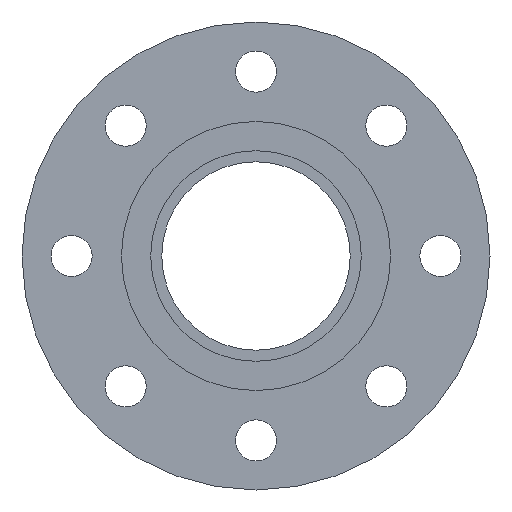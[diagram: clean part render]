
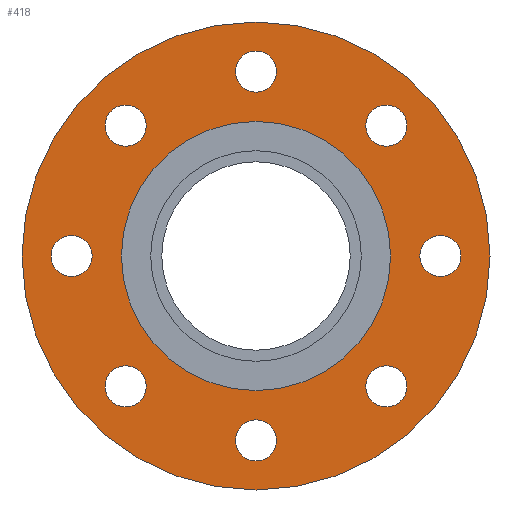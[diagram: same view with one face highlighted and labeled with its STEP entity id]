
A CAD part, left-side view. The second image highlights one B-rep face of the part: STEP entity #418.
In plain terms, the highlighted planar face has unit normal (-1, 0, 0).
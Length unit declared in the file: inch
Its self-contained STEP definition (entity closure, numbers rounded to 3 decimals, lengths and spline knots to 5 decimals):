
#14=FACE_BOUND('',#72,.T.);
#15=FACE_BOUND('',#73,.T.);
#16=FACE_BOUND('',#74,.T.);
#17=FACE_BOUND('',#75,.T.);
#18=FACE_BOUND('',#76,.T.);
#19=FACE_BOUND('',#77,.T.);
#20=FACE_BOUND('',#78,.T.);
#21=FACE_BOUND('',#79,.T.);
#22=FACE_BOUND('',#80,.T.);
#36=PLANE('',#478);
#51=FACE_OUTER_BOUND('',#71,.T.);
#71=EDGE_LOOP('',(#304,#305));
#72=EDGE_LOOP('',(#306));
#73=EDGE_LOOP('',(#307));
#74=EDGE_LOOP('',(#308));
#75=EDGE_LOOP('',(#309));
#76=EDGE_LOOP('',(#310));
#77=EDGE_LOOP('',(#311));
#78=EDGE_LOOP('',(#312));
#79=EDGE_LOOP('',(#313));
#80=EDGE_LOOP('',(#314,#315));
#133=CIRCLE('',#451,0.44);
#135=CIRCLE('',#454,0.44);
#137=CIRCLE('',#457,0.44);
#139=CIRCLE('',#460,0.44);
#141=CIRCLE('',#463,0.44);
#143=CIRCLE('',#466,0.44);
#145=CIRCLE('',#469,0.44);
#147=CIRCLE('',#472,0.44);
#148=CIRCLE('',#474,5.);
#149=CIRCLE('',#475,5.);
#152=CIRCLE('',#479,2.875);
#153=CIRCLE('',#480,2.875);
#173=VERTEX_POINT('',#649);
#175=VERTEX_POINT('',#655);
#177=VERTEX_POINT('',#661);
#179=VERTEX_POINT('',#667);
#181=VERTEX_POINT('',#673);
#183=VERTEX_POINT('',#679);
#185=VERTEX_POINT('',#685);
#187=VERTEX_POINT('',#691);
#188=VERTEX_POINT('',#695);
#189=VERTEX_POINT('',#696);
#192=VERTEX_POINT('',#705);
#193=VERTEX_POINT('',#706);
#214=EDGE_CURVE('',#173,#173,#133,.T.);
#217=EDGE_CURVE('',#175,#175,#135,.T.);
#220=EDGE_CURVE('',#177,#177,#137,.T.);
#223=EDGE_CURVE('',#179,#179,#139,.T.);
#226=EDGE_CURVE('',#181,#181,#141,.T.);
#229=EDGE_CURVE('',#183,#183,#143,.T.);
#232=EDGE_CURVE('',#185,#185,#145,.T.);
#235=EDGE_CURVE('',#187,#187,#147,.T.);
#236=EDGE_CURVE('',#188,#189,#148,.T.);
#237=EDGE_CURVE('',#189,#188,#149,.T.);
#241=EDGE_CURVE('',#192,#193,#152,.T.);
#242=EDGE_CURVE('',#193,#192,#153,.T.);
#304=ORIENTED_EDGE('',*,*,#236,.T.);
#305=ORIENTED_EDGE('',*,*,#237,.T.);
#306=ORIENTED_EDGE('',*,*,#214,.T.);
#307=ORIENTED_EDGE('',*,*,#217,.T.);
#308=ORIENTED_EDGE('',*,*,#220,.T.);
#309=ORIENTED_EDGE('',*,*,#223,.T.);
#310=ORIENTED_EDGE('',*,*,#226,.T.);
#311=ORIENTED_EDGE('',*,*,#229,.T.);
#312=ORIENTED_EDGE('',*,*,#232,.T.);
#313=ORIENTED_EDGE('',*,*,#235,.T.);
#314=ORIENTED_EDGE('',*,*,#241,.F.);
#315=ORIENTED_EDGE('',*,*,#242,.F.);
#418=ADVANCED_FACE('',(#51,#14,#15,#16,#17,#18,#19,#20,#21,#22),#36,.T.);
#451=AXIS2_PLACEMENT_3D('',#651,#516,#517);
#454=AXIS2_PLACEMENT_3D('',#657,#523,#524);
#457=AXIS2_PLACEMENT_3D('',#663,#530,#531);
#460=AXIS2_PLACEMENT_3D('',#669,#537,#538);
#463=AXIS2_PLACEMENT_3D('',#675,#544,#545);
#466=AXIS2_PLACEMENT_3D('',#681,#551,#552);
#469=AXIS2_PLACEMENT_3D('',#687,#558,#559);
#472=AXIS2_PLACEMENT_3D('',#693,#565,#566);
#474=AXIS2_PLACEMENT_3D('',#697,#569,#570);
#475=AXIS2_PLACEMENT_3D('',#698,#571,#572);
#478=AXIS2_PLACEMENT_3D('',#704,#578,#579);
#479=AXIS2_PLACEMENT_3D('',#707,#580,#581);
#480=AXIS2_PLACEMENT_3D('',#708,#582,#583);
#516=DIRECTION('center_axis',(1.,0.,0.));
#517=DIRECTION('ref_axis',(0.,-0.707,0.707));
#523=DIRECTION('center_axis',(1.,0.,0.));
#524=DIRECTION('ref_axis',(0.,-1.,0.));
#530=DIRECTION('center_axis',(1.,0.,0.));
#531=DIRECTION('ref_axis',(0.,-0.707,-0.707));
#537=DIRECTION('center_axis',(1.,0.,0.));
#538=DIRECTION('ref_axis',(0.,0.,-1.));
#544=DIRECTION('center_axis',(1.,0.,0.));
#545=DIRECTION('ref_axis',(0.,0.707,-0.707));
#551=DIRECTION('center_axis',(1.,0.,0.));
#552=DIRECTION('ref_axis',(0.,1.,0.));
#558=DIRECTION('center_axis',(1.,0.,0.));
#559=DIRECTION('ref_axis',(0.,0.707,0.707));
#565=DIRECTION('center_axis',(1.,0.,0.));
#566=DIRECTION('ref_axis',(0.,0.,1.));
#569=DIRECTION('center_axis',(-1.,0.,0.));
#570=DIRECTION('ref_axis',(0.,0.,1.));
#571=DIRECTION('center_axis',(-1.,0.,0.));
#572=DIRECTION('ref_axis',(0.,0.,1.));
#578=DIRECTION('center_axis',(-1.,0.,0.));
#579=DIRECTION('ref_axis',(0.,0.,1.));
#580=DIRECTION('center_axis',(-1.,0.,0.));
#581=DIRECTION('ref_axis',(0.,0.,1.));
#582=DIRECTION('center_axis',(-1.,0.,0.));
#583=DIRECTION('ref_axis',(0.,0.,1.));
#649=CARTESIAN_POINT('',(-1.25,3.09713,-3.09713));
#651=CARTESIAN_POINT('Origin',(-1.25,2.786,-2.786));
#655=CARTESIAN_POINT('',(-1.25,4.38,0.));
#657=CARTESIAN_POINT('Origin',(-1.25,3.94,0.));
#661=CARTESIAN_POINT('',(-1.25,3.09713,3.09713));
#663=CARTESIAN_POINT('Origin',(-1.25,2.786,2.786));
#667=CARTESIAN_POINT('',(-1.25,0.,4.38));
#669=CARTESIAN_POINT('Origin',(-1.25,0.,3.94));
#673=CARTESIAN_POINT('',(-1.25,-3.09713,3.09713));
#675=CARTESIAN_POINT('Origin',(-1.25,-2.786,2.786));
#679=CARTESIAN_POINT('',(-1.25,-4.38,0.));
#681=CARTESIAN_POINT('Origin',(-1.25,-3.94,0.));
#685=CARTESIAN_POINT('',(-1.25,-3.09713,-3.09713));
#687=CARTESIAN_POINT('Origin',(-1.25,-2.786,-2.786));
#691=CARTESIAN_POINT('',(-1.25,0.,-4.38));
#693=CARTESIAN_POINT('Origin',(-1.25,0.,-3.94));
#695=CARTESIAN_POINT('',(-1.25,0.,5.));
#696=CARTESIAN_POINT('',(-1.25,0.,-5.));
#697=CARTESIAN_POINT('Origin',(-1.25,0.,0.));
#698=CARTESIAN_POINT('Origin',(-1.25,0.,0.));
#704=CARTESIAN_POINT('Origin',(-1.25,0.,3.9375));
#705=CARTESIAN_POINT('',(-1.25,0.,2.875));
#706=CARTESIAN_POINT('',(-1.25,0.,-2.875));
#707=CARTESIAN_POINT('Origin',(-1.25,0.,0.));
#708=CARTESIAN_POINT('Origin',(-1.25,0.,0.));
